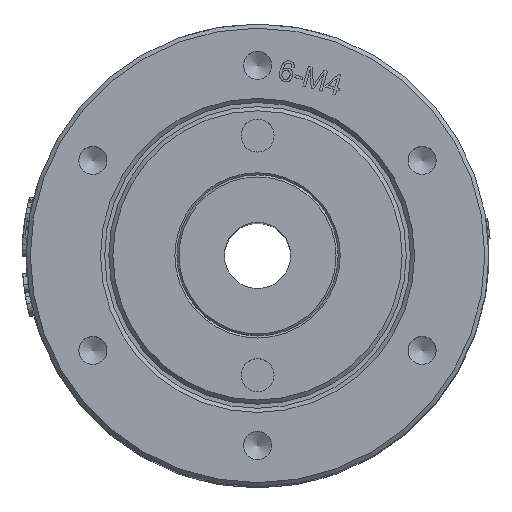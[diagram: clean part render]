
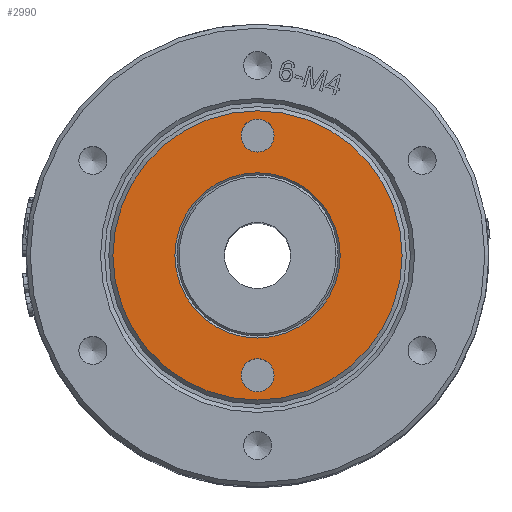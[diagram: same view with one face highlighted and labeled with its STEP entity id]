
A CAD part, top view. The second image highlights one B-rep face of the part: STEP entity #2990.
In plain terms, the highlighted planar face has unit normal (0, 0, 1).
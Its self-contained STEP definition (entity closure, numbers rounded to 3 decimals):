
#293=FACE_BOUND('',#8697,.T.);
#294=FACE_BOUND('',#8698,.T.);
#295=FACE_BOUND('',#8699,.T.);
#296=FACE_BOUND('',#8700,.T.);
#614=CIRCLE('',#29953,10.);
#615=CIRCLE('',#29955,2.);
#616=CIRCLE('',#29957,2.);
#617=CIRCLE('',#29959,17.5);
#1081=PLANE('',#29960);
#2990=ADVANCED_FACE('',(#293,#294,#295,#296),#1081,.F.);
#8697=EDGE_LOOP('',(#13919));
#8698=EDGE_LOOP('',(#13920));
#8699=EDGE_LOOP('',(#13921));
#8700=EDGE_LOOP('',(#13922));
#13919=ORIENTED_EDGE('',*,*,#23566,.T.);
#13920=ORIENTED_EDGE('',*,*,#23565,.T.);
#13921=ORIENTED_EDGE('',*,*,#23564,.T.);
#13922=ORIENTED_EDGE('',*,*,#23563,.T.);
#19879=VERTEX_POINT('',#50614);
#19880=VERTEX_POINT('',#50617);
#19881=VERTEX_POINT('',#50620);
#19882=VERTEX_POINT('',#50623);
#23563=EDGE_CURVE('',#19879,#19879,#614,.T.);
#23564=EDGE_CURVE('',#19880,#19880,#615,.T.);
#23565=EDGE_CURVE('',#19881,#19881,#616,.T.);
#23566=EDGE_CURVE('',#19882,#19882,#617,.T.);
#29953=AXIS2_PLACEMENT_3D('',#50613,#32297,#32298);
#29955=AXIS2_PLACEMENT_3D('',#50616,#32301,#32302);
#29957=AXIS2_PLACEMENT_3D('',#50619,#32305,#32306);
#29959=AXIS2_PLACEMENT_3D('',#50622,#32309,#32310);
#29960=AXIS2_PLACEMENT_3D('',#50624,#32311,#32312);
#32297=DIRECTION('',(0.,0.,-1.));
#32298=DIRECTION('',(-1.,0.,0.));
#32301=DIRECTION('',(0.,0.,-1.));
#32302=DIRECTION('',(-1.,0.,0.));
#32305=DIRECTION('',(0.,0.,-1.));
#32306=DIRECTION('',(-1.,0.,0.));
#32309=DIRECTION('',(0.,0.,1.));
#32310=DIRECTION('',(-1.,0.,0.));
#32311=DIRECTION('',(0.,0.,-1.));
#32312=DIRECTION('',(-1.,0.,0.));
#50613=CARTESIAN_POINT('',(0.,0.,79.5));
#50614=CARTESIAN_POINT('',(-10.,0.,79.5));
#50616=CARTESIAN_POINT('',(0.,-14.5,79.5));
#50617=CARTESIAN_POINT('',(-2.,-14.5,79.5));
#50619=CARTESIAN_POINT('',(0.,14.5,79.5));
#50620=CARTESIAN_POINT('',(-2.,14.5,79.5));
#50622=CARTESIAN_POINT('',(0.,0.,79.5));
#50623=CARTESIAN_POINT('',(-17.5,0.,79.5));
#50624=CARTESIAN_POINT('',(0.,0.,79.5));
